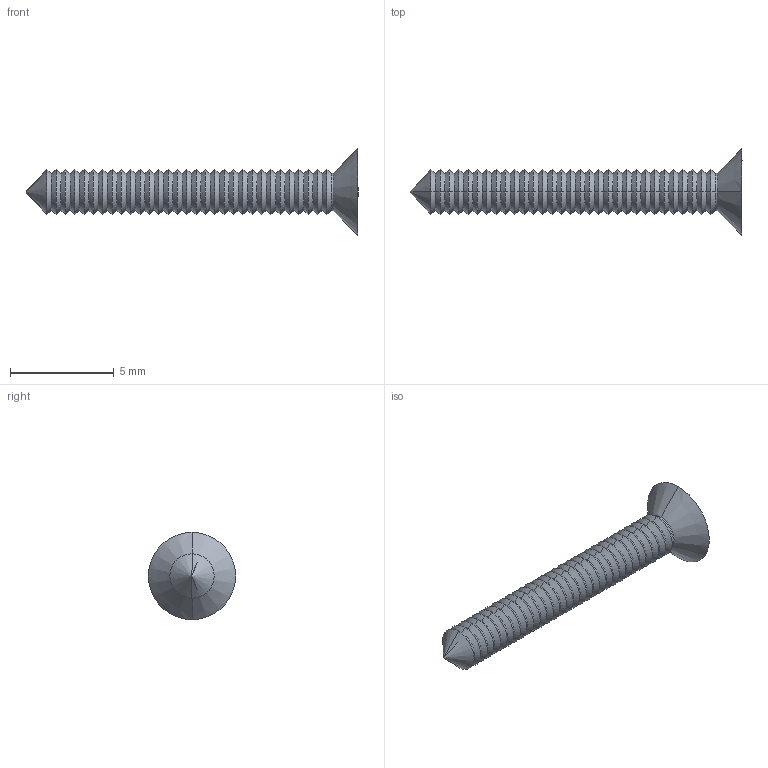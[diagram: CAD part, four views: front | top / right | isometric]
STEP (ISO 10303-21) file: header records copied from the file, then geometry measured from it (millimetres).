
FILE_DESCRIPTION (( 'STEP AP214' ), '1' );
FILE_NAME ('Cargol 2,2x9,3 PP32.STEP', '2016-10-07T08:10:04', ( 'aaa' ), ( '' ), 'SwSTEP 2.0', 'SolidWorks 2013', '' );
FILE_SCHEMA (( 'AUTOMOTIVE_DESIGN' ));
Length unit declared in the file: millimetre
Products named in the file (1): Cargol 2,2x9,3 PP32
Bounding box: 16 x 4.2 x 4.2 mm (x, y, z)
Volume: 50.3 mm3; surface area: 150.5 mm2
Topology: 1 solids, 1 shells, 142 faces, 294 edges, 153 vertices
Faces by surface type: cone 126, plane 14, cylinder 2
Entity records: 3658 total; most frequent: DIRECTION 706, CARTESIAN_POINT 588, ORIENTED_EDGE 584, EDGE_CURVE 292, AXIS2_PLACEMENT_3D 271, VECTOR 164, LINE 164, VERTEX_POINT 153
